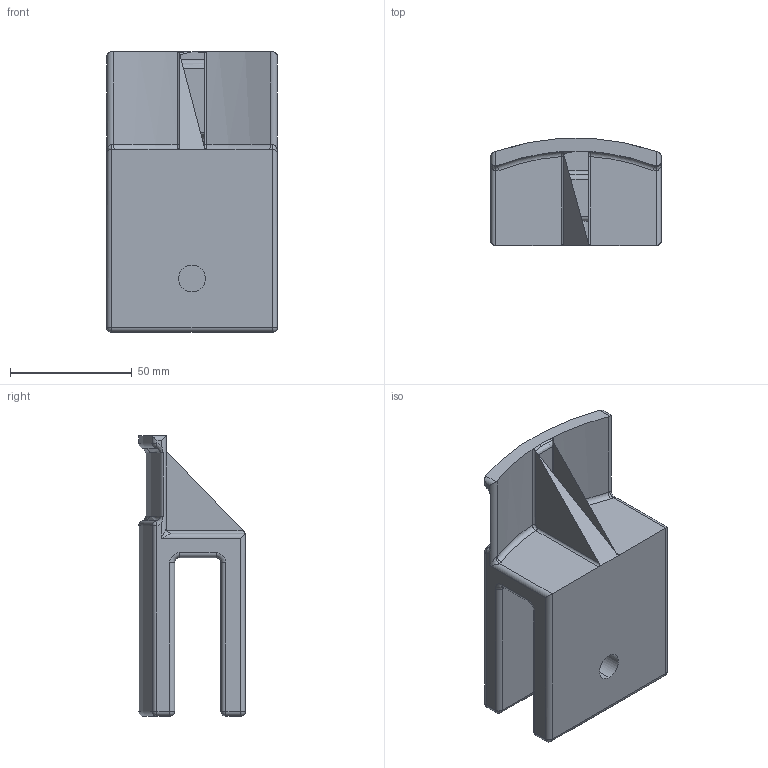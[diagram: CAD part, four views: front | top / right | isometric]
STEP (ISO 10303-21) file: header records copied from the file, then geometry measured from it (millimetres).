
FILE_DESCRIPTION (( 'STEP AP203' ), '1' );
FILE_NAME ('Headset bracket.STEP', '2018-05-17T11:32:57', ( '' ), ( '' ), 'SwSTEP 2.0', 'SolidWorks 2017', '' );
FILE_SCHEMA (( 'CONFIG_CONTROL_DESIGN' ));
Length unit declared in the file: millimetre
Products named in the file (1): Headset bracket
Bounding box: 70 x 43.77 x 115 mm (x, y, z)
Volume: 149055.2 mm3; surface area: 35249.9 mm2
Topology: 1 solids, 1 shells, 89 faces, 206 edges, 111 vertices
Faces by surface type: cylinder 40, plane 16, torus 13, sphere 12, bspline 8
Entity records: 2928 total; most frequent: CARTESIAN_POINT 945, DIRECTION 417, ORIENTED_EDGE 396, EDGE_CURVE 198, AXIS2_PLACEMENT_3D 171, VERTEX_POINT 111, EDGE_LOOP 91, CIRCLE 89
